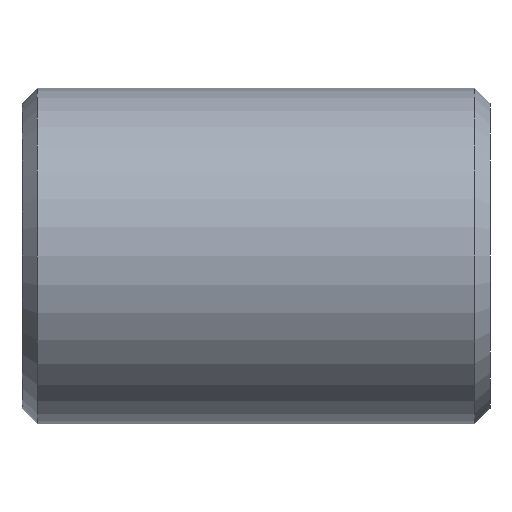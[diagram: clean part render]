
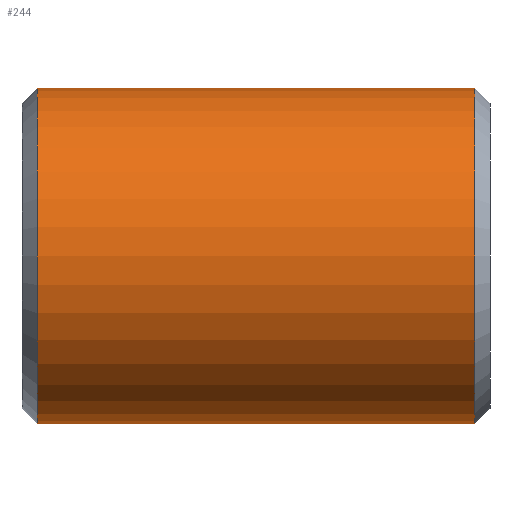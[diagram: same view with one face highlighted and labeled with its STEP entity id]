
A CAD part, front view. The second image highlights one B-rep face of the part: STEP entity #244.
In plain terms, the highlighted cylindrical face has radius 33 mm (diameter 66 mm), a partial arc.
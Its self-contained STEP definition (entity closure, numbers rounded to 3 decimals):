
#6 = DIRECTION ( 'NONE',  ( 0., 0., 1. ) ) ;
#9 = AXIS2_PLACEMENT_3D ( 'NONE', #31, #443, #6 ) ;
#16 = AXIS2_PLACEMENT_3D ( 'NONE', #117, #72, #108 ) ;
#27 = EDGE_LOOP ( 'NONE', ( #322, #37, #198, #328 ) ) ;
#30 = CARTESIAN_POINT ( 'NONE',  ( 89., 0., -33. ) ) ;
#31 = CARTESIAN_POINT ( 'NONE',  ( 89., 0., 0. ) ) ;
#37 = ORIENTED_EDGE ( 'NONE', *, *, #423, .T. ) ;
#62 = DIRECTION ( 'NONE',  ( -1., 0., 0. ) ) ;
#65 = LINE ( 'NONE', #270, #361 ) ;
#72 = DIRECTION ( 'NONE',  ( 1., 0., 0. ) ) ;
#108 = DIRECTION ( 'NONE',  ( 0., 0., -1. ) ) ;
#113 = EDGE_CURVE ( 'NONE', #259, #317, #65, .T. ) ;
#114 = DIRECTION ( 'NONE',  ( -1., 0., 0. ) ) ;
#117 = CARTESIAN_POINT ( 'NONE',  ( 3., 0., 0. ) ) ;
#121 = CARTESIAN_POINT ( 'NONE',  ( 0., 0., 33. ) ) ;
#122 = CARTESIAN_POINT ( 'NONE',  ( 3., 0., -33. ) ) ;
#123 = CIRCLE ( 'NONE', #16, 33. ) ;
#149 = AXIS2_PLACEMENT_3D ( 'NONE', #274, #114, #171 ) ;
#168 = DIRECTION ( 'NONE',  ( -1., 0., 0. ) ) ;
#170 = CARTESIAN_POINT ( 'NONE',  ( 89., 0., 33. ) ) ;
#171 = DIRECTION ( 'NONE',  ( 0., 0., 1. ) ) ;
#179 = FACE_OUTER_BOUND ( 'NONE', #27, .T. ) ;
#188 = CARTESIAN_POINT ( 'NONE',  ( 3., 0., 33. ) ) ;
#198 = ORIENTED_EDGE ( 'NONE', *, *, #338, .T. ) ;
#214 = VERTEX_POINT ( 'NONE', #188 ) ;
#221 = EDGE_CURVE ( 'NONE', #214, #317, #123, .T. ) ;
#244 = ADVANCED_FACE ( 'NONE', ( #179 ), #372, .T. ) ;
#250 = VERTEX_POINT ( 'NONE', #170 ) ;
#259 = VERTEX_POINT ( 'NONE', #30 ) ;
#270 = CARTESIAN_POINT ( 'NONE',  ( 0., 0., -33. ) ) ;
#274 = CARTESIAN_POINT ( 'NONE',  ( 0., 0., 0. ) ) ;
#317 = VERTEX_POINT ( 'NONE', #122 ) ;
#322 = ORIENTED_EDGE ( 'NONE', *, *, #113, .F. ) ;
#328 = ORIENTED_EDGE ( 'NONE', *, *, #221, .T. ) ;
#338 = EDGE_CURVE ( 'NONE', #250, #214, #387, .T. ) ;
#361 = VECTOR ( 'NONE', #62, 1000. ) ;
#372 = CYLINDRICAL_SURFACE ( 'NONE', #149, 33. ) ;
#387 = LINE ( 'NONE', #121, #426 ) ;
#423 = EDGE_CURVE ( 'NONE', #259, #250, #439, .T. ) ;
#426 = VECTOR ( 'NONE', #168, 1000. ) ;
#439 = CIRCLE ( 'NONE', #9, 33. ) ;
#443 = DIRECTION ( 'NONE',  ( -1., 0., 0. ) ) ;
